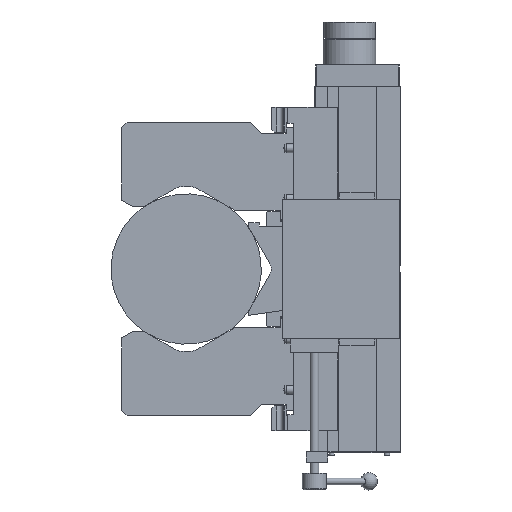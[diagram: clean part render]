
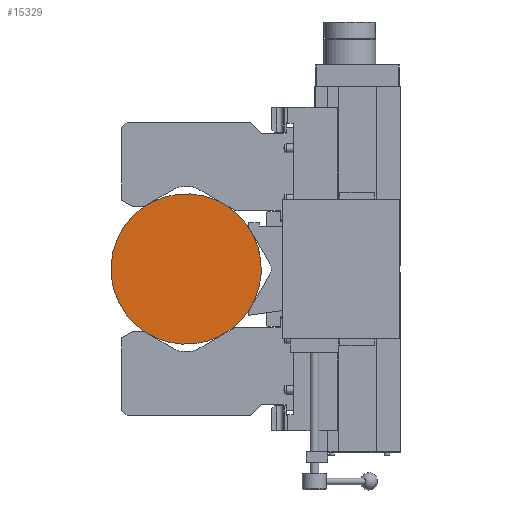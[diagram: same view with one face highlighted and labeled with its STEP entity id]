
A CAD part, front view. The second image highlights one B-rep face of the part: STEP entity #15329.
In plain terms, the highlighted planar face has unit normal (0, -1, 0).
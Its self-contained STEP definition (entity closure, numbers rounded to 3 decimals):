
#15300=CARTESIAN_POINT('',(-574.995,259.569,1489.842));
#15301=VERTEX_POINT('',#15300);
#15302=CARTESIAN_POINT('',(-591.254,259.569,1628.894));
#15303=DIRECTION('',(0.,-1.,0.));
#15304=DIRECTION('',(-0.116,0.,0.993));
#15305=AXIS2_PLACEMENT_3D('',#15302,#15303,#15304);
#15306=CIRCLE('',#15305,140.);
#15307=EDGE_CURVE('',#15301,#15301,#15306,.T.);
#15321=CARTESIAN_POINT('',(-591.254,259.569,1628.894));
#15322=DIRECTION('',(0.0,-1.0,0.0));
#15323=DIRECTION('',(-0.116,0.0,0.993));
#15324=AXIS2_PLACEMENT_3D('',#15321,#15322,#15323);
#15325=PLANE('',#15324);
#15326=ORIENTED_EDGE('',*,*,#15307,.T.);
#15327=EDGE_LOOP('',(#15326));
#15328=FACE_OUTER_BOUND('',#15327,.T.);
#15329=ADVANCED_FACE('',(#15328),#15325,.T.);
